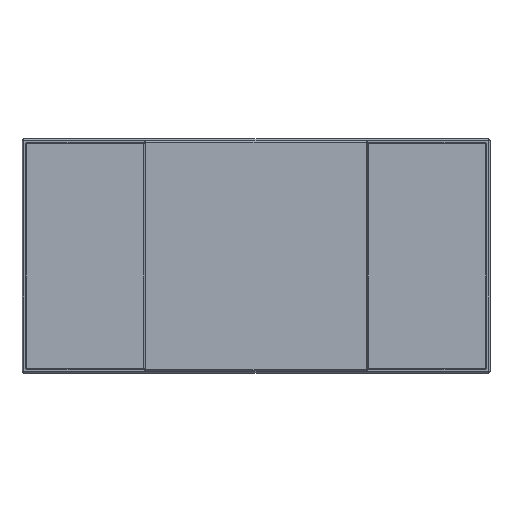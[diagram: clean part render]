
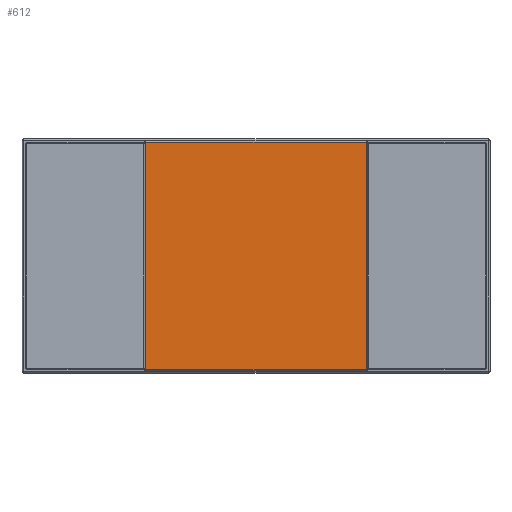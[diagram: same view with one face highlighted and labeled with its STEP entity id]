
A CAD part, top view. The second image highlights one B-rep face of the part: STEP entity #612.
In plain terms, the highlighted planar face has unit normal (0, 0, 1).
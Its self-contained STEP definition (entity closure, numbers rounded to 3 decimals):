
#612=ADVANCED_FACE('',(#1315),#1317,.T.);
#1315=FACE_BOUND('',#1316,.T.);
#1316=EDGE_LOOP('',(#1774,#1775,#1776,#1777));
#1317=PLANE('',#1318);
#1318=AXIS2_PLACEMENT_3D('',#1319,#1320,#1321);
#1319=CARTESIAN_POINT('',(0.,0.,0.61));
#1320=DIRECTION('',(0.,0.,1.));
#1321=DIRECTION('',(-1.,0.,0.));
#1774=ORIENTED_EDGE('',*,*,#2052,.T.);
#1775=ORIENTED_EDGE('',*,*,#2053,.T.);
#1776=ORIENTED_EDGE('',*,*,#2054,.T.);
#1777=ORIENTED_EDGE('',*,*,#2055,.T.);
#2052=EDGE_CURVE('',#2315,#2316,#2317,.T.);
#2053=EDGE_CURVE('',#2316,#2318,#2319,.T.);
#2054=EDGE_CURVE('',#2318,#2320,#2321,.T.);
#2055=EDGE_CURVE('',#2320,#2315,#2322,.T.);
#2315=VERTEX_POINT('',#2900);
#2316=VERTEX_POINT('',#2901);
#2317=LINE('',#2902,#2903);
#2318=VERTEX_POINT('',#2905);
#2319=LINE('',#2906,#2907);
#2320=VERTEX_POINT('',#2909);
#2321=LINE('',#2910,#2911);
#2322=LINE('',#2913,#2914);
#2900=CARTESIAN_POINT('',(-1.18,1.216,0.61));
#2901=CARTESIAN_POINT('',(-1.18,-1.216,0.61));
#2902=CARTESIAN_POINT('',(-1.18,1.216,0.61));
#2903=VECTOR('',#2904,1.);
#2904=DIRECTION('',(0.,-1.,0.));
#2905=CARTESIAN_POINT('',(1.18,-1.216,0.61));
#2906=CARTESIAN_POINT('',(-1.18,-1.216,0.61));
#2907=VECTOR('',#2908,1.);
#2908=DIRECTION('',(1.,0.,0.));
#2909=CARTESIAN_POINT('',(1.18,1.216,0.61));
#2910=CARTESIAN_POINT('',(1.18,-1.216,0.61));
#2911=VECTOR('',#2912,1.);
#2912=DIRECTION('',(0.,1.,0.));
#2913=CARTESIAN_POINT('',(1.18,1.216,0.61));
#2914=VECTOR('',#2915,1.);
#2915=DIRECTION('',(-1.,0.,0.));
